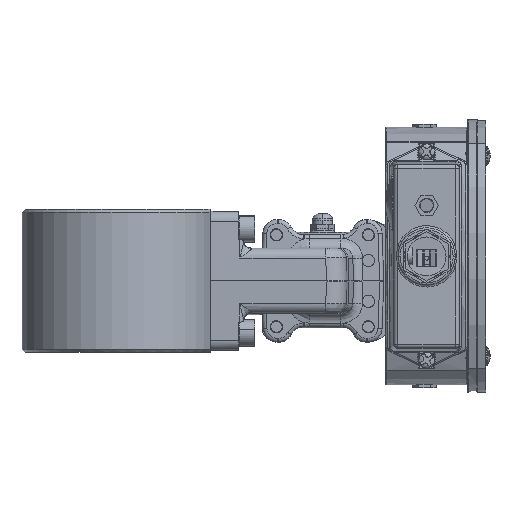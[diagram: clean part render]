
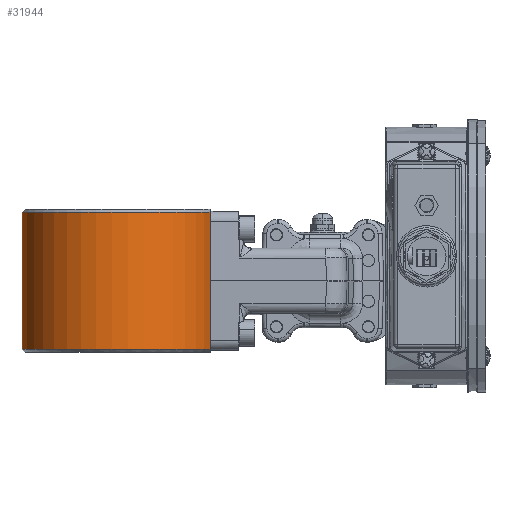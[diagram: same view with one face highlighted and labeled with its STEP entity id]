
A CAD part, front view. The second image highlights one B-rep face of the part: STEP entity #31944.
In plain terms, the highlighted cylindrical face has radius 47 mm (diameter 94 mm), a partial arc.
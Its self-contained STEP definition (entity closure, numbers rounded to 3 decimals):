
#4910 = DIRECTION ( 'NONE',  ( 0., 0., -1. ) ) ;
#7235 = DIRECTION ( 'NONE',  ( -1., 0., 0. ) ) ;
#10370 = VERTEX_POINT ( 'NONE', #56341 ) ;
#12499 = DIRECTION ( 'NONE',  ( -1., 0., 0. ) ) ;
#17940 = LINE ( 'NONE', #80767, #78475 ) ;
#20112 = ORIENTED_EDGE ( 'NONE', *, *, #20322, .T. ) ;
#20322 = EDGE_CURVE ( 'NONE', #10370, #21787, #21108, .T. ) ;
#21108 = CIRCLE ( 'NONE', #22045, 47. ) ;
#21787 = VERTEX_POINT ( 'NONE', #58660 ) ;
#22045 = AXIS2_PLACEMENT_3D ( 'NONE', #52430, #4910, #60317 ) ;
#22296 = EDGE_CURVE ( 'NONE', #96654, #60336, #65382, .T. ) ;
#26342 = FACE_OUTER_BOUND ( 'NONE', #84264, .T. ) ;
#31944 = ADVANCED_FACE ( 'NONE', ( #26342 ), #45012, .T. ) ;
#37802 = LINE ( 'NONE', #39138, #58749 ) ;
#39138 = CARTESIAN_POINT ( 'NONE',  ( -55.19, -81.258, 57.468 ) ) ;
#44413 = DIRECTION ( 'NONE',  ( 0., 0., -1. ) ) ;
#45012 = CYLINDRICAL_SURFACE ( 'NONE', #73379, 47. ) ;
#48918 = DIRECTION ( 'NONE',  ( 0., 0., -1. ) ) ;
#52033 = CARTESIAN_POINT ( 'NONE',  ( -100.19, -67.693, 57.468 ) ) ;
#52430 = CARTESIAN_POINT ( 'NONE',  ( -100.19, -67.693, 55.968 ) ) ;
#52623 = CARTESIAN_POINT ( 'NONE',  ( -147.19, -67.693, -11.032 ) ) ;
#54775 = DIRECTION ( 'NONE',  ( 0., 0., 1. ) ) ;
#56341 = CARTESIAN_POINT ( 'NONE',  ( -55.19, -81.258, 55.968 ) ) ;
#57501 = EDGE_CURVE ( 'NONE', #21787, #96654, #17940, .T. ) ;
#58660 = CARTESIAN_POINT ( 'NONE',  ( -147.19, -67.693, 55.968 ) ) ;
#58749 = VECTOR ( 'NONE', #78629, 1000. ) ;
#60317 = DIRECTION ( 'NONE',  ( -1., 0., 0. ) ) ;
#60336 = VERTEX_POINT ( 'NONE', #101770 ) ;
#64873 = ORIENTED_EDGE ( 'NONE', *, *, #82312, .T. ) ;
#65382 = CIRCLE ( 'NONE', #82803, 47. ) ;
#73379 = AXIS2_PLACEMENT_3D ( 'NONE', #52033, #44413, #12499 ) ;
#78475 = VECTOR ( 'NONE', #48918, 1000. ) ;
#78629 = DIRECTION ( 'NONE',  ( 0., 0., 1. ) ) ;
#80767 = CARTESIAN_POINT ( 'NONE',  ( -147.19, -67.693, 57.468 ) ) ;
#81678 = ORIENTED_EDGE ( 'NONE', *, *, #22296, .T. ) ;
#82312 = EDGE_CURVE ( 'NONE', #60336, #10370, #37802, .T. ) ;
#82803 = AXIS2_PLACEMENT_3D ( 'NONE', #101165, #54775, #7235 ) ;
#84264 = EDGE_LOOP ( 'NONE', ( #20112, #90569, #81678, #64873 ) ) ;
#90569 = ORIENTED_EDGE ( 'NONE', *, *, #57501, .T. ) ;
#96654 = VERTEX_POINT ( 'NONE', #52623 ) ;
#101165 = CARTESIAN_POINT ( 'NONE',  ( -100.19, -67.693, -11.032 ) ) ;
#101770 = CARTESIAN_POINT ( 'NONE',  ( -55.19, -81.258, -11.032 ) ) ;
